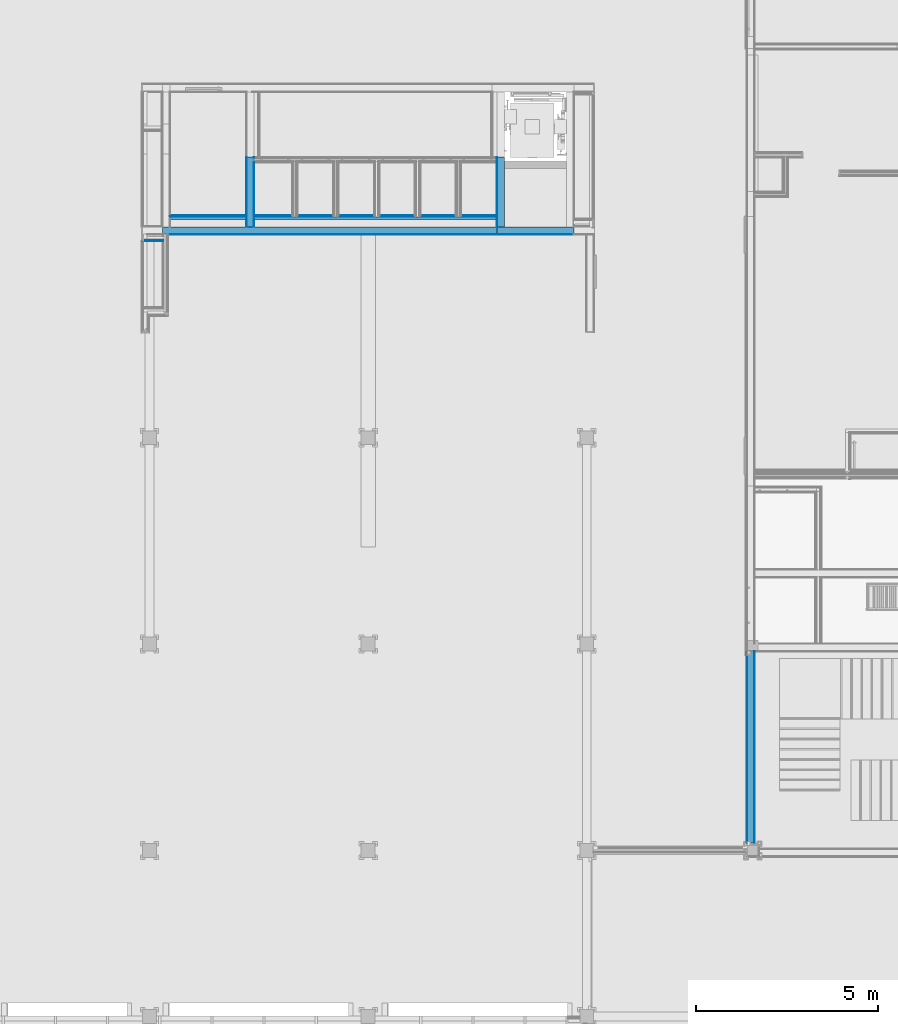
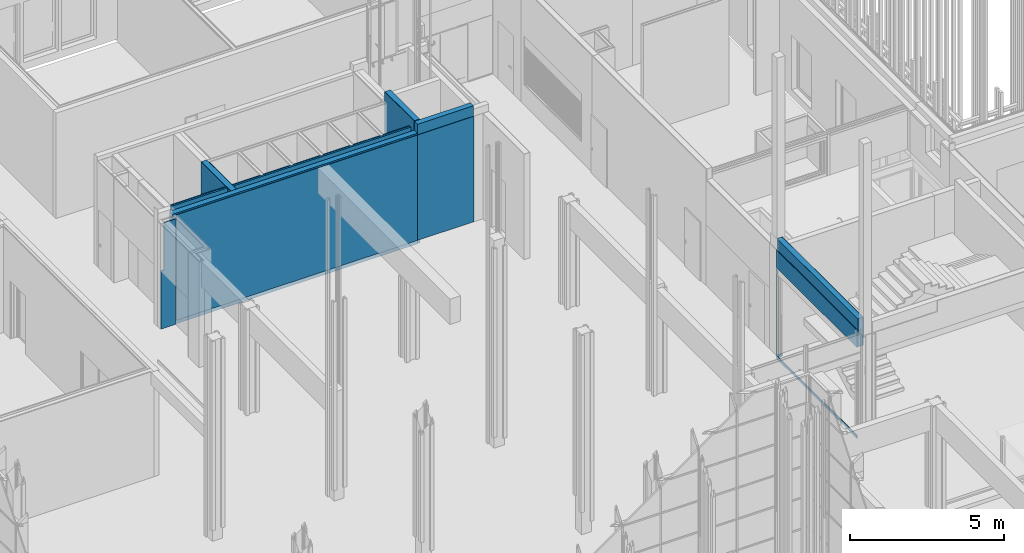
# One storey, part 172 of 260: 23 building element parts, 1 opening, 8 elements without a shape of their own.
"""IFC2X3 building model written with IfcOpenShell, lengths in millimetres."""

from ifc_helpers import new_model, entity, si_unit, converted_unit, derived_unit, money_unit, direction, frame, origin_with_axes, place, context, subcontext, project, spatial, faceted_brep, material, type_object, element, aggregate, save


model = new_model("IFC2X3")

# Units and contexts
model_context = context("Model", 3, precision=0.01, world=origin_with_axes(), true_north=direction((0.0, 1.0)))
body_context = subcontext(model_context, "Body", "Model", "MODEL_VIEW")
ifc_project = project(units=[si_unit("LENGTHUNIT", "METRE", prefix="MILLI"), si_unit("AREAUNIT", "SQUARE_METRE"), si_unit("VOLUMEUNIT", "CUBIC_METRE"), converted_unit("PLANEANGLEUNIT", "DEGREE", entity("IfcPlaneAngleMeasure", 0.0174532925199), si_unit("PLANEANGLEUNIT", "RADIAN"), dimensions=[0, 0, 0, 0, 0, 0, 0]), money_unit("EUR"), converted_unit("TIMEUNIT", "Year", entity("IfcTimeMeasure", 31556926.0), si_unit("TIMEUNIT", "SECOND"), dimensions=[0, 0, 1, 0, 0, 0, 0]), si_unit("MASSUNIT", "GRAM", prefix="KILO"), si_unit("THERMODYNAMICTEMPERATUREUNIT", "DEGREE_CELSIUS"), si_unit("LUMINOUSINTENSITYUNIT", "LUMEN"), si_unit("ENERGYUNIT", "JOULE", prefix="MEGA"), derived_unit("THERMALCONDUCTANCEUNIT", [(si_unit("POWERUNIT", "WATT"), 1), (si_unit("LENGTHUNIT", "METRE"), -1), (si_unit("THERMODYNAMICTEMPERATUREUNIT", "KELVIN"), -1)]), derived_unit("SPECIFICHEATCAPACITYUNIT", [(si_unit("ENERGYUNIT", "JOULE"), 1), (si_unit("MASSUNIT", "GRAM", prefix="KILO"), -1), (si_unit("THERMODYNAMICTEMPERATUREUNIT", "KELVIN"), -1)]), derived_unit("MASSDENSITYUNIT", [(si_unit("MASSUNIT", "GRAM", prefix="KILO"), 1), (si_unit("VOLUMEUNIT", "CUBIC_METRE"), -1)])], contexts=[model_context])

# Site, building, storey
site_placement = place(None, origin_with_axes())
site = spatial("IfcSite", under=ifc_project, at=site_placement, Name="Kolde pst 67a", CompositionType="ELEMENT")
building_placement = place(site_placement, origin_with_axes())
building = spatial("IfcBuilding", under=site, at=building_placement, Name="Riigigümnaasium", CompositionType="ELEMENT")
storey_placement = place(building_placement, origin_with_axes())
storey = spatial("IfcBuildingStorey", under=building, at=storey_placement, Name="1. korrus", CompositionType="ELEMENT", Elevation=0.0)

# Wall, opening, building element parts
wall_type_1 = type_object("IfcWallType", Name="SS-RB-20/3_+krohv+dold 240", PredefinedType="NOTDEFINED")
wall_1_placement = place(storey_placement, frame((52829.9941222, 34239.9999729, -120.1), z_axis=(0.0, 0.0, 1.0), x_axis=(0.0, -1.0, 0.0)))
wall_1 = element("IfcWall", 1, at=wall_1_placement, inside=storey, type_object=wall_type_1, Name="Sisesein")
opening_placement = place(wall_1_placement, frame((2642.50015843, 0.0, 120.1), z_axis=(0.0, 0.0, 1.0), x_axis=(1.0, 0.0, 0.0)))
element("IfcOpeningElement", 2, at=opening_placement, cuts=wall_1, Name="Ukseava", context=body_context, shape_type="Brep", body=[
    faceted_brep([(2637.50015843, 240.0, 0.0), (2637.50015843, 240.0, 3470.0), (2637.50015843, -480.0, 3470.0), (2637.50015843, -480.0, 0.0), (-2637.50015843, 240.0, 0.0), (-2637.50015843, 240.0, 3470.0), (-2637.50015843, -480.0, 3470.0), (-2637.50015843, -480.0, 0.0)], [[[0, 1, 2, 3]], [[0, 4, 5, 1]], [[1, 5, 6, 2]], [[3, 2, 6, 7]], [[4, 0, 3, 7]], [[5, 4, 7, 6]]]),
])
ifc_material_1 = material(Name="_VIIMISTLUSKIHT - viimistlus vastavalt SA osale")
building_element_part_1_placement = place(wall_1_placement, origin_with_axes())
building_element_part_1 = element("IfcBuildingElementPart", 3, at=building_element_part_1_placement, material=ifc_material_1, Name="_VIIMISTLUSKIHT - viimistlus vastavalt SA osale", context=body_context, shape_type="Brep", body=[
    faceted_brep([(5250.00031686, 0.0, 3610.1), (10.0, 0.0, 3610.1), (10.0, 0.0, 4355.1), (0.0, 0.0, 4355.1), (0.0, 0.0, 4720.1), (5250.00031686, 0.0, 4720.1), (10.0, -10.0, 3610.1), (5250.00031686, -10.0, 3610.1), (10.0, -10.0, 4355.1), (0.0, -10.0, 4355.1), (0.0, -10.0, 4720.1), (5250.00031686, -10.0, 4720.1)], [[[0, 1, 2, 3, 4, 5]], [[6, 1, 0, 7]], [[1, 6, 8, 2]], [[2, 8, 9, 3]], [[10, 4, 3, 9]], [[4, 10, 11, 5]], [[7, 0, 5, 11]], [[6, 7, 11, 10, 9, 8]]]),
    faceted_brep([(10.0, -10.0, 120.1), (10.0, 0.0, 120.1), (0.0, 0.0, 120.1), (0.0, -10.0, 120.1), (10.0, 0.0, 0.0), (10.0, -10.0, 0.0), (0.0, 0.0, 0.0), (0.0, -10.0, 0.0)], [[[0, 1, 2, 3]], [[4, 1, 0, 5]], [[1, 4, 6, 2]], [[7, 3, 2, 6]], [[5, 0, 3, 7]], [[4, 5, 7, 6]]]),
])
ifc_material_2 = material(Name="_KANDETARIND - monteeritav raudbetoon vastavalt EK osale")
building_element_part_2_placement = place(wall_1_placement, origin_with_axes())
building_element_part_2 = element("IfcBuildingElementPart", 4, at=building_element_part_2_placement, material=ifc_material_2, Name="_KANDETARIND - monteeritav raudbetoon vastavalt EK osale", context=body_context, shape_type="Brep", body=[
    faceted_brep([(10.0, -10.0, 120.1), (0.0, -10.0, 120.1), (0.0, -200.0, 120.1), (5.0, -200.0, 120.1), (5.0, -210.0, 120.1), (10.0, -210.0, 120.1), (10.0, -10.0, 0.0), (0.0, -10.0, 0.0), (0.0, -10.0, 4355.1), (0.0, -200.0, 4355.1), (0.0, -210.0, 0.0), (0.0, -210.0, 4720.1), (0.0, -10.0, 4720.1), (10.0, -200.0, 3610.1), (10.0, -200.0, 3590.1), (5.0, -200.0, 3590.1), (10.0, -200.0, 4355.1), (5.0, -210.0, 3590.1), (10.0, -210.0, 3610.1), (5250.00031686, -210.0, 3610.1), (5250.00031686, -210.0, 4720.1), (10.0, -210.0, 0.0), (10.0, -210.0, 3590.1), (10.0, -10.0, 4355.1), (5250.00031686, -10.0, 4720.1), (5250.00031686, -10.0, 3610.1), (10.0, -10.0, 3610.1)], [[[0, 1, 2, 3, 4, 5]], [[0, 6, 7, 1]], [[8, 9, 2, 1, 7, 10, 11, 12]], [[13, 14, 15, 3, 2, 9, 16]], [[17, 4, 3, 15]], [[18, 19, 20, 11, 10, 21, 5, 4, 17, 22]], [[6, 0, 5, 21]], [[6, 21, 10, 7]], [[23, 16, 9, 8]], [[12, 11, 20, 24]], [[25, 26, 23, 8, 12, 24]], [[14, 13, 18, 22]], [[14, 22, 17, 15]], [[26, 13, 16, 23]], [[13, 26, 25, 19, 18]], [[19, 25, 24, 20]]]),
])
ifc_material_3 = material(Name="_KARKASS - eriprofiilkinnitus vastavalt sisemisele plaatviimistlusele")
building_element_part_3_placement = place(wall_1_placement, origin_with_axes())
building_element_part_3 = element("IfcBuildingElementPart", 5, at=building_element_part_3_placement, material=ifc_material_3, Name="_KARKASS - eriprofiilkinnitus vastavalt sisemisele plaatviimistlusele", context=body_context, shape_type="Brep", body=[
    faceted_brep([(10.0, -220.000000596, 120.1), (10.0, -210.0, 120.1), (5.0, -210.0, 120.1), (5.0, -220.0, 120.1), (10.0, -210.0, 0.0), (10.0, -220.000000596, 0.0), (10.0, -210.0, 3610.1), (10.0, -210.0, 3590.1), (5.0, -210.0, 3590.1), (0.0, -210.0, 0.0), (0.0, -210.0, 4720.1), (5250.00031686, -210.0, 4720.1), (5250.00031686, -210.0, 3610.1), (5.0, -220.0, 3590.1), (10.0, -220.000000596, 3610.1), (5250.00031686, -220.000000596, 3610.1), (5250.00031686, -220.0, 4290.1), (0.0, -220.0, 4290.1), (0.0, -220.0, 0.0), (10.0, -220.000000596, 3590.1), (0.0, -211.0, 4290.1), (0.0, -211.0, 4720.1), (5250.00031686, -211.0, 4720.1), (5250.00031686, -211.0, 4290.1)], [[[0, 1, 2, 3]], [[4, 1, 0, 5]], [[6, 7, 8, 2, 1, 4, 9, 10, 11, 12]], [[13, 3, 2, 8]], [[14, 15, 16, 17, 18, 5, 0, 3, 13, 19]], [[4, 5, 18, 9]], [[7, 6, 14, 19]], [[7, 19, 13, 8]], [[18, 17, 20, 21, 10, 9]], [[10, 21, 22, 11]], [[15, 12, 11, 22, 23, 16]], [[6, 12, 15, 14]], [[23, 20, 17, 16]], [[22, 21, 20, 23]]]),
])
building_element_part_4_placement = place(wall_1_placement, origin_with_axes())
building_element_part_4 = element("IfcBuildingElementPart", 6, at=building_element_part_4_placement, material=ifc_material_1, Name="_VIIMISTLUSKIHT - viimistlus vastavalt SA osale", context=body_context, shape_type="Brep", body=[
    faceted_brep([(0.0, -240.0, 0.0), (0.0, -240.0, 4290.1), (0.0, -220.0, 4290.1), (0.0, -220.0, 0.0), (5250.00031686, -240.0, 3590.1), (5250.00031686, -240.0, 4290.1), (5250.00031686, -240.0, 0.0), (5250.00031686, -240.0, 120.1), (5.0, -240.0, 120.1), (5.0, -240.0, 3590.1), (5250.00031686, -220.0, 4290.1), (5250.00031686, -220.0, 3590.1), (5.0, -220.0, 3590.1), (5.0, -220.0, 120.1), (5250.00031686, -220.0, 120.1), (5250.00031686, -220.0, 0.0)], [[[0, 1, 2, 3]], [[4, 5, 1, 0, 6, 7, 8, 9]], [[5, 10, 2, 1]], [[3, 2, 10, 11, 12, 13, 14, 15]], [[3, 15, 6, 0]], [[11, 10, 5, 4]], [[6, 15, 14, 7]], [[8, 7, 14, 13]], [[9, 8, 13, 12]], [[4, 9, 12, 11]]]),
])
aggregate(wall_1, [building_element_part_1, building_element_part_2, building_element_part_3, building_element_part_4])

# Wall, building element parts
wall_type_2 = type_object("IfcWallType", Name="SS-MK-66/3_šahti sein+plaat 106", PredefinedType="NOTDEFINED")
wall_2_placement = place(storey_placement, frame((39109.8305113, 46179.9999966, 0.0), z_axis=(0.0, 0.0, 1.0), x_axis=(1.0, 0.0, 0.0)))
wall_2 = element("IfcWall", 7, at=wall_2_placement, inside=storey, type_object=wall_type_2, Name="Varisein")
building_element_part_5_placement = place(wall_2_placement, origin_with_axes())
building_element_part_5 = element("IfcBuildingElementPart", 8, at=building_element_part_5_placement, material=ifc_material_1, Name="_VIIMISTLUSKIHT - viimistlus vastavalt SA osale", context=body_context, shape_type="Brep", body=[
    faceted_brep([(15.0, 0.0, 4230.0), (1065.15494935, 0.0, 4230.0), (1065.15494935, 0.0, 0.0), (15.0, 0.0, 0.0), (1065.15494935, -15.0, 4230.0), (15.0, -15.0, 4230.0), (1065.15494935, -15.0, 0.0), (15.0, -15.0, 0.0)], [[[0, 1, 2, 3]], [[4, 1, 0, 5]], [[1, 4, 6, 2]], [[2, 6, 7, 3]], [[5, 0, 3, 7]], [[4, 5, 7, 6]]]),
    faceted_brep([(1190.15494935, 0.0, 4230.0), (2185.15494935, 0.0, 4230.0), (2185.15494935, 0.0, 0.0), (1190.15494935, 0.0, 0.0), (2185.15494935, -15.0, 4230.0), (1190.15494935, -15.0, 4230.0), (2185.15494935, -15.0, 0.0), (1190.15494935, -15.0, 0.0)], [[[0, 1, 2, 3]], [[4, 1, 0, 5]], [[1, 4, 6, 2]], [[2, 6, 7, 3]], [[5, 0, 3, 7]], [[4, 5, 7, 6]]]),
    faceted_brep([(2310.15494935, 0.0, 4230.0), (3305.15494935, 0.0, 4230.0), (3305.15494935, 0.0, 0.0), (2310.15494935, 0.0, 0.0), (3305.15494935, -15.0, 4230.0), (2310.15494935, -15.0, 4230.0), (3305.15494935, -15.0, 0.0), (2310.15494935, -15.0, 0.0)], [[[0, 1, 2, 3]], [[4, 1, 0, 5]], [[1, 4, 6, 2]], [[2, 6, 7, 3]], [[5, 0, 3, 7]], [[4, 5, 7, 6]]]),
    faceted_brep([(3430.15494935, 0.0, 4230.0), (4425.15494935, 0.0, 4230.0), (4425.15494935, 0.0, 0.0), (3430.15494935, 0.0, 0.0), (4425.15494935, -15.0, 4230.0), (3430.15494935, -15.0, 4230.0), (4425.15494935, -15.0, 0.0), (3430.15494935, -15.0, 0.0)], [[[0, 1, 2, 3]], [[4, 1, 0, 5]], [[1, 4, 6, 2]], [[2, 6, 7, 3]], [[5, 0, 3, 7]], [[4, 5, 7, 6]]]),
    faceted_brep([(4550.15494935, 0.0, 4230.0), (5545.15494935, 0.0, 4230.0), (5545.15494935, 0.0, 0.0), (4550.15494935, 0.0, 0.0), (5545.15494935, -15.0, 4230.0), (4550.15494935, -15.0, 4230.0), (5545.15494935, -15.0, 0.0), (4550.15494935, -15.0, 0.0)], [[[0, 1, 2, 3]], [[4, 1, 0, 5]], [[1, 4, 6, 2]], [[2, 6, 7, 3]], [[5, 0, 3, 7]], [[4, 5, 7, 6]]]),
    faceted_brep([(5670.15494935, 0.0, 4230.0), (6665.15494935, 0.0, 4230.0), (6665.15494935, 0.0, 0.0), (5670.15494935, 0.0, 0.0), (6665.15494935, -15.0, 4230.0), (5670.15494935, -15.0, 4230.0), (6665.15494935, -15.0, 0.0), (5670.15494935, -15.0, 0.0)], [[[0, 1, 2, 3]], [[4, 1, 0, 5]], [[1, 4, 6, 2]], [[3, 2, 6, 7]], [[5, 0, 3, 7]], [[4, 5, 7, 6]]]),
])
ifc_material_4 = material(Name="_PLAATMATERJAL - kipsplaat veekindel")
building_element_part_6_placement = place(wall_2_placement, origin_with_axes())
building_element_part_6 = element("IfcBuildingElementPart", 9, at=building_element_part_6_placement, material=ifc_material_4, Name="_PLAATMATERJAL - kipsplaat veekindel", context=body_context, shape_type="Brep", body=[
    faceted_brep([(0.0, -15.0, 4230.0), (1077.65494935, -15.0, 4230.0), (1077.65494935, -15.0, 0.0), (0.0, -15.0, 0.0), (1077.65494935, -27.5, 4230.0), (0.0, -27.5, 4230.0), (1077.65494935, -27.5, 0.0), (0.0, -27.5, 0.0)], [[[0, 1, 2, 3]], [[4, 1, 0, 5]], [[1, 4, 6, 2]], [[2, 6, 7, 3]], [[5, 0, 3, 7]], [[4, 5, 7, 6]]]),
    faceted_brep([(1177.65494935, -15.0, 4230.0), (2197.65494935, -15.0, 4230.0), (2197.65494935, -15.0, 0.0), (1177.65494935, -15.0, 0.0), (2197.65494935, -27.5, 4230.0), (1177.65494935, -27.5, 4230.0), (2197.65494935, -27.5, 0.0), (1177.65494935, -27.5, 0.0)], [[[0, 1, 2, 3]], [[4, 1, 0, 5]], [[1, 4, 6, 2]], [[2, 6, 7, 3]], [[5, 0, 3, 7]], [[4, 5, 7, 6]]]),
    faceted_brep([(2297.65494935, -15.0, 4230.0), (3317.65494935, -15.0, 4230.0), (3317.65494935, -15.0, 0.0), (2297.65494935, -15.0, 0.0), (3317.65494935, -27.5, 4230.0), (2297.65494935, -27.5, 4230.0), (3317.65494935, -27.5, 0.0), (2297.65494935, -27.5, 0.0)], [[[0, 1, 2, 3]], [[4, 1, 0, 5]], [[1, 4, 6, 2]], [[2, 6, 7, 3]], [[5, 0, 3, 7]], [[4, 5, 7, 6]]]),
    faceted_brep([(3417.65494935, -15.0, 4230.0), (4437.65494935, -15.0, 4230.0), (4437.65494935, -15.0, 0.0), (3417.65494935, -15.0, 0.0), (4437.65494935, -27.5, 4230.0), (3417.65494935, -27.5, 4230.0), (4437.65494935, -27.5, 0.0), (3417.65494935, -27.5, 0.0)], [[[0, 1, 2, 3]], [[4, 1, 0, 5]], [[1, 4, 6, 2]], [[2, 6, 7, 3]], [[5, 0, 3, 7]], [[4, 5, 7, 6]]]),
    faceted_brep([(4537.65494935, -15.0, 4230.0), (5557.65494935, -15.0, 4230.0), (5557.65494935, -15.0, 0.0), (4537.65494935, -15.0, 0.0), (5557.65494935, -27.5, 4230.0), (4537.65494935, -27.5, 4230.0), (5557.65494935, -27.5, 0.0), (4537.65494935, -27.5, 0.0)], [[[0, 1, 2, 3]], [[4, 1, 0, 5]], [[1, 4, 6, 2]], [[2, 6, 7, 3]], [[5, 0, 3, 7]], [[4, 5, 7, 6]]]),
    faceted_brep([(5657.65494935, -15.0, 4230.0), (6665.15494935, -15.0, 4230.0), (6665.15494935, -15.0, 0.0), (5657.65494935, -15.0, 0.0), (6665.15494935, -27.5, 4230.0), (5657.65494935, -27.5, 4230.0), (6665.15494935, -27.5, 0.0), (5657.65494935, -27.5, 0.0)], [[[0, 1, 2, 3]], [[4, 1, 0, 5]], [[1, 4, 6, 2]], [[3, 2, 6, 7]], [[5, 0, 3, 7]], [[4, 5, 7, 6]]]),
])
building_element_part_7_placement = place(wall_2_placement, origin_with_axes())
building_element_part_7 = element("IfcBuildingElementPart", 10, at=building_element_part_7_placement, material=ifc_material_4, Name="_PLAATMATERJAL - kipsplaat veekindel", context=body_context, shape_type="Brep", body=[
    faceted_brep([(0.0, -27.5, 4230.0), (1090.15494935, -27.5, 4230.0), (1090.15494935, -27.5, 0.0), (0.0, -27.5, 0.0), (1090.15494935, -40.0, 4230.0), (0.0, -40.0, 4230.0), (1090.15494935, -40.0, 0.0), (0.0, -40.0, 0.0)], [[[0, 1, 2, 3]], [[4, 1, 0, 5]], [[1, 4, 6, 2]], [[2, 6, 7, 3]], [[5, 0, 3, 7]], [[4, 5, 7, 6]]]),
    faceted_brep([(1165.15494935, -27.5, 4230.0), (2210.15494935, -27.5, 4230.0), (2210.15494935, -27.5, 0.0), (1165.15494935, -27.5, 0.0), (2210.15494935, -40.0, 4230.0), (1165.15494935, -40.0, 4230.0), (2210.15494935, -40.0, 0.0), (1165.15494935, -40.0, 0.0)], [[[0, 1, 2, 3]], [[4, 1, 0, 5]], [[1, 4, 6, 2]], [[2, 6, 7, 3]], [[5, 0, 3, 7]], [[4, 5, 7, 6]]]),
    faceted_brep([(2285.15494935, -27.5, 4230.0), (3330.15494935, -27.5, 4230.0), (3330.15494935, -27.5, 0.0), (2285.15494935, -27.5, 0.0), (3330.15494935, -40.0, 4230.0), (2285.15494935, -40.0, 4230.0), (3330.15494935, -40.0, 0.0), (2285.15494935, -40.0, 0.0)], [[[0, 1, 2, 3]], [[4, 1, 0, 5]], [[1, 4, 6, 2]], [[2, 6, 7, 3]], [[5, 0, 3, 7]], [[4, 5, 7, 6]]]),
    faceted_brep([(3405.15494935, -27.5, 4230.0), (4450.15494935, -27.5, 4230.0), (4450.15494935, -27.5, 0.0), (3405.15494935, -27.5, 0.0), (4450.15494935, -40.0, 4230.0), (3405.15494935, -40.0, 4230.0), (4450.15494935, -40.0, 0.0), (3405.15494935, -40.0, 0.0)], [[[0, 1, 2, 3]], [[4, 1, 0, 5]], [[1, 4, 6, 2]], [[2, 6, 7, 3]], [[5, 0, 3, 7]], [[4, 5, 7, 6]]]),
    faceted_brep([(4525.15494935, -27.5, 4230.0), (5570.15494935, -27.5, 4230.0), (5570.15494935, -27.5, 0.0), (4525.15494935, -27.5, 0.0), (5570.15494935, -40.0, 4230.0), (4525.15494935, -40.0, 4230.0), (5570.15494935, -40.0, 0.0), (4525.15494935, -40.0, 0.0)], [[[0, 1, 2, 3]], [[4, 1, 0, 5]], [[1, 4, 6, 2]], [[2, 6, 7, 3]], [[5, 0, 3, 7]], [[4, 5, 7, 6]]]),
    faceted_brep([(5645.15494935, -27.5, 4230.0), (6665.15494935, -27.5, 4230.0), (6665.15494935, -27.5, 0.0), (5645.15494935, -27.5, 0.0), (6665.15494935, -40.0, 4230.0), (5645.15494935, -40.0, 4230.0), (6665.15494935, -40.0, 0.0), (5645.15494935, -40.0, 0.0)], [[[0, 1, 2, 3]], [[4, 1, 0, 5]], [[1, 4, 6, 2]], [[3, 2, 6, 7]], [[5, 0, 3, 7]], [[4, 5, 7, 6]]]),
])
ifc_material_5 = material(Name="_KARKASS - metallkarkass CW 75/50, mineraalvill karkassi vahel")
building_element_part_8_placement = place(wall_2_placement, origin_with_axes())
building_element_part_8 = element("IfcBuildingElementPart", 11, at=building_element_part_8_placement, material=ifc_material_5, Name="_KARKASS - metallkarkass CW 75/50, mineraalvill karkassi vahel", context=body_context, shape_type="Brep", body=[
    faceted_brep([(0.0, -40.0, 4230.0), (6665.15494935, -40.0, 4230.0), (6665.15494935, -40.0, 0.0), (0.0, -40.0, 0.0), (6665.15494935, -106.0, 4230.0), (0.0, -106.0, 4230.0), (6665.15494935, -106.0, 0.0), (0.0, -106.0, 0.0)], [[[0, 1, 2, 3]], [[4, 1, 0, 5]], [[1, 4, 6, 2]], [[3, 2, 6, 7]], [[5, 0, 3, 7]], [[4, 5, 7, 6]]]),
])
aggregate(wall_2, [building_element_part_5, building_element_part_6, building_element_part_7, building_element_part_8])

wall_type_3 = type_object("IfcWallType", Name="SS-RB-20/5_+1 plaat 215", PredefinedType="NOTDEFINED")
wall_3_placement = place(storey_placement, frame((45774.9854607, 45869.9999598, -300.2), z_axis=(0.0, 0.0, 1.0), x_axis=(0.0, 1.0, 0.0)))
wall_3 = element("IfcWall", 12, at=wall_3_placement, inside=storey, type_object=wall_type_3, Name="Sisesein")
building_element_part_9_placement = place(wall_3_placement, origin_with_axes())
building_element_part_9 = element("IfcBuildingElementPart", 13, at=building_element_part_9_placement, material=ifc_material_1, Name="_VIIMISTLUSKIHT - viimistlus vastavalt SA osale", context=body_context, shape_type="Brep", body=[
    faceted_brep([(1908.50000096, 0.0, 4900.2), (1908.50000096, 15.0, 4900.2), (0.0, 15.0, 4900.2), (0.0, 0.0, 4900.2), (1908.50000096, 0.0, 0.0), (1908.50000096, 15.0, 0.0), (0.0, 15.0, 0.0), (0.0, 0.0, 0.0)], [[[0, 1, 2, 3]], [[0, 4, 5, 1]], [[1, 5, 6, 2]], [[3, 2, 6, 7]], [[4, 0, 3, 7]], [[5, 4, 7, 6]]]),
])
building_element_part_10_placement = place(wall_3_placement, origin_with_axes())
building_element_part_10 = element("IfcBuildingElementPart", 14, at=building_element_part_10_placement, material=ifc_material_2, Name="_KANDETARIND - monteeritav raudbetoon vastavalt EK osale", context=body_context, shape_type="Brep", body=[
    faceted_brep([(1908.50000096, -200.0, 4900.2), (1908.50000096, 0.0, 4900.2), (0.0, 0.0, 4900.2), (0.0, -200.0, 4900.2), (1908.50000096, -200.0, 0.0), (1908.50000096, 0.0, 0.0), (0.0, 0.0, 0.0), (0.0, -200.0, 0.0)], [[[0, 1, 2, 3]], [[0, 4, 5, 1]], [[1, 5, 6, 2]], [[3, 2, 6, 7]], [[4, 0, 3, 7]], [[5, 4, 7, 6]]]),
])
aggregate(wall_3, [building_element_part_9, building_element_part_10])

wall_4_placement = place(storey_placement, frame((36804.99923, 46179.9999966, 0.0), z_axis=(0.0, 0.0, 1.0), x_axis=(1.0, 0.0, 0.0)))
wall_4 = element("IfcWall", 15, at=wall_4_placement, inside=storey, type_object=wall_type_2, Name="Varisein")
building_element_part_11_placement = place(wall_4_placement, origin_with_axes())
building_element_part_11 = element("IfcBuildingElementPart", 16, at=building_element_part_11_placement, material=ifc_material_1, Name="_VIIMISTLUSKIHT - viimistlus vastavalt SA osale", context=body_context, shape_type="Brep", body=[
    faceted_brep([(15.0, 0.0, 4230.0), (2089.83128133, 0.0, 4230.0), (2089.83128133, 0.0, 0.0), (15.0, 0.0, 0.0), (2089.83128133, -15.0, 4230.0), (15.0, -15.0, 4230.0), (2089.83128133, -15.0, 0.0), (15.0, -15.0, 0.0)], [[[0, 1, 2, 3]], [[4, 1, 0, 5]], [[1, 4, 6, 2]], [[3, 2, 6, 7]], [[5, 0, 3, 7]], [[4, 5, 7, 6]]]),
])
building_element_part_12_placement = place(wall_4_placement, origin_with_axes())
building_element_part_12 = element("IfcBuildingElementPart", 17, at=building_element_part_12_placement, material=ifc_material_4, Name="_PLAATMATERJAL - kipsplaat veekindel", context=body_context, shape_type="Brep", body=[
    faceted_brep([(0.0, -15.0, 4230.0), (2104.83128133, -15.0, 4230.0), (2104.83128133, -15.0, 0.0), (0.0, -15.0, 0.0), (2104.83128133, -27.5, 4230.0), (0.0, -27.5, 4230.0), (2104.83128133, -27.5, 0.0), (0.0, -27.5, 0.0)], [[[0, 1, 2, 3]], [[4, 1, 0, 5]], [[1, 4, 6, 2]], [[3, 2, 6, 7]], [[5, 0, 3, 7]], [[4, 5, 7, 6]]]),
])
building_element_part_13_placement = place(wall_4_placement, origin_with_axes())
building_element_part_13 = element("IfcBuildingElementPart", 18, at=building_element_part_13_placement, material=ifc_material_4, Name="_PLAATMATERJAL - kipsplaat veekindel", context=body_context, shape_type="Brep", body=[
    faceted_brep([(0.0, -27.5, 4230.0), (2104.83128133, -27.5, 4230.0), (2104.83128133, -27.5, 0.0), (0.0, -27.5, 0.0), (2104.83128133, -40.0, 4230.0), (0.0, -40.0, 4230.0), (2104.83128133, -40.0, 0.0), (0.0, -40.0, 0.0)], [[[0, 1, 2, 3]], [[4, 1, 0, 5]], [[1, 4, 6, 2]], [[3, 2, 6, 7]], [[5, 0, 3, 7]], [[4, 5, 7, 6]]]),
])
building_element_part_14_placement = place(wall_4_placement, origin_with_axes())
building_element_part_14 = element("IfcBuildingElementPart", 19, at=building_element_part_14_placement, material=ifc_material_5, Name="_KARKASS - metallkarkass CW 75/50, mineraalvill karkassi vahel", context=body_context, shape_type="Brep", body=[
    faceted_brep([(0.0, -40.0, 4230.0), (2104.83128133, -40.0, 4230.0), (2104.83128133, -40.0, 0.0), (0.0, -40.0, 0.0), (2104.83128133, -106.0, 4230.0), (0.0, -106.0, 4230.0), (2104.83128133, -106.0, 0.0), (0.0, -106.0, 0.0)], [[[0, 1, 2, 3]], [[4, 1, 0, 5]], [[1, 4, 6, 2]], [[3, 2, 6, 7]], [[5, 0, 3, 7]], [[4, 5, 7, 6]]]),
])
aggregate(wall_4, [building_element_part_11, building_element_part_12, building_element_part_13, building_element_part_14])

wall_5_placement = place(storey_placement, frame((45774.9854607, 45669.9999598, -150.0), z_axis=(0.0, 0.0, 1.0), x_axis=(-1.0, 0.0, 0.0)))
wall_5 = element("IfcWall", 20, at=wall_5_placement, inside=storey, type_object=wall_type_3, Name="Sisesein")
building_element_part_15_placement = place(wall_5_placement, origin_with_axes())
building_element_part_15 = element("IfcBuildingElementPart", 21, at=building_element_part_15_placement, material=ifc_material_1, Name="_VIIMISTLUSKIHT - viimistlus vastavalt SA osale", context=body_context, shape_type="Brep", body=[
    faceted_brep([(9154.98623068, 15.0, 150.0), (9154.98623068, 0.0, 150.0), (9154.98623068, 0.0, 4320.0), (9154.98623068, 15.0, 4320.0), (9169.98623068, 0.0, 150.0), (9169.98623068, 15.0, 150.0), (9169.98623068, 0.0, 4320.0), (9169.98623068, 15.0, 4320.0)], [[[0, 1, 2, 3]], [[4, 1, 0, 5]], [[1, 4, 6, 2]], [[3, 2, 6, 7]], [[5, 0, 3, 7]], [[4, 5, 7, 6]]]),
    faceted_brep([(0.0, 15.0, 150.0), (0.0, 0.0, 150.0), (0.0, 0.0, 4320.0), (0.0, 15.0, 4320.0), (9029.98623068, 0.0, 150.0), (9029.98623068, 15.0, 150.0), (9029.98623068, 0.0, 4320.0), (9029.98623068, 15.0, 4320.0)], [[[0, 1, 2, 3]], [[4, 1, 0, 5]], [[1, 4, 6, 2]], [[3, 2, 6, 7]], [[5, 0, 3, 7]], [[4, 5, 7, 6]]]),
])
building_element_part_16_placement = place(wall_5_placement, origin_with_axes())
building_element_part_16 = element("IfcBuildingElementPart", 22, at=building_element_part_16_placement, material=ifc_material_2, Name="_KANDETARIND - monteeritav raudbetoon vastavalt EK osale", context=body_context, shape_type="Brep", body=[
    faceted_brep([(9169.98623068, -200.0, 4380.0), (0.0, -200.0, 4380.0), (0.0, -200.0, 0.0), (9169.98623068, -200.0, 0.0), (0.0, 0.0, 4380.0), (9169.98623068, 0.0, 4380.0), (0.0, 0.0, 0.0), (9169.98623068, 0.0, 0.0)], [[[0, 1, 2, 3]], [[4, 1, 0, 5]], [[1, 4, 6, 2]], [[3, 2, 6, 7]], [[5, 0, 3, 7]], [[4, 5, 7, 6]]]),
])
aggregate(wall_5, [building_element_part_15, building_element_part_16])

wall_6_placement = place(storey_placement, frame((47874.9854607, 45669.9999598, 0.0), z_axis=(0.0, 0.0, 1.0), x_axis=(-1.0, 0.0, 0.0)))
wall_6 = element("IfcWall", 23, at=wall_6_placement, inside=storey, type_object=wall_type_3, Name="Sisesein")
building_element_part_17_placement = place(wall_6_placement, origin_with_axes())
building_element_part_17 = element("IfcBuildingElementPart", 24, at=building_element_part_17_placement, material=ifc_material_1, Name="_VIIMISTLUSKIHT - viimistlus vastavalt SA osale", context=body_context, shape_type="Brep", body=[
    faceted_brep([(2100.0, 0.0, 4170.0), (0.0, 0.0, 4170.0), (0.0, 0.0, 0.0), (2100.0, 0.0, 0.0), (0.0, 15.0, 4170.0), (2100.0, 15.0, 4170.0), (0.0, 15.0, 0.0), (2100.0, 15.0, 0.0)], [[[0, 1, 2, 3]], [[4, 1, 0, 5]], [[1, 4, 6, 2]], [[2, 6, 7, 3]], [[5, 0, 3, 7]], [[4, 5, 7, 6]]]),
])
building_element_part_18_placement = place(wall_6_placement, origin_with_axes())
building_element_part_18 = element("IfcBuildingElementPart", 25, at=building_element_part_18_placement, material=ifc_material_2, Name="_KANDETARIND - monteeritav raudbetoon vastavalt EK osale", context=body_context, shape_type="Brep", body=[
    faceted_brep([(0.0, -200.0, 4580.0), (2100.0, -200.0, 4580.0), (2100.0, 0.0, 4580.0), (0.0, 0.0, 4580.0), (0.0, -200.0, 0.0), (2100.0, -200.0, 0.0), (2100.0, 0.0, 0.0), (0.0, 0.0, 0.0)], [[[0, 1, 2, 3]], [[4, 5, 1, 0]], [[2, 1, 5, 6]], [[3, 2, 6, 7]], [[4, 0, 3, 7]], [[7, 6, 5, 4]]]),
])
aggregate(wall_6, [building_element_part_17, building_element_part_18])

wall_type_4 = type_object("IfcWallType", Name="SS-RB-20/2_+2 plaat 230", PredefinedType="NOTDEFINED")
wall_7_placement = place(storey_placement, frame((39109.8305113, 45669.9999598, -80.0), z_axis=(0.0, 0.0, 1.0), x_axis=(0.0, 1.0, 0.0)))
wall_7 = element("IfcWall", 26, at=wall_7_placement, inside=storey, type_object=wall_type_4, Name="Sisesein")
building_element_part_19_placement = place(wall_7_placement, origin_with_axes())
building_element_part_19 = element("IfcBuildingElementPart", 27, at=building_element_part_19_placement, material=ifc_material_1, Name="_VIIMISTLUSKIHT - viimistlus vastavalt SA osale", context=body_context, shape_type="Brep", body=[
    faceted_brep([(200.0, 200.0, 80.0), (404.000036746, 200.0, 80.0), (404.000036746, 200.0, 4310.0), (200.0, 200.0, 4310.0), (404.000036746, 215.0, 80.0), (200.0, 215.0, 80.0), (404.000036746, 215.0, 4310.0), (200.0, 215.0, 4310.0)], [[[0, 1, 2, 3]], [[4, 1, 0, 5]], [[1, 4, 6, 2]], [[3, 2, 6, 7]], [[5, 0, 3, 7]], [[4, 5, 7, 6]]]),
    faceted_brep([(495.000036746, 200.0, 80.0), (2108.50000096, 200.0, 80.0), (2108.50000096, 200.0, 4310.0), (495.000036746, 200.0, 4310.0), (2108.50000096, 215.0, 80.0), (495.000036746, 215.0, 80.0), (2108.50000096, 215.0, 4310.0), (495.000036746, 215.0, 4310.0)], [[[0, 1, 2, 3]], [[4, 1, 0, 5]], [[1, 4, 6, 2]], [[3, 2, 6, 7]], [[5, 0, 3, 7]], [[4, 5, 7, 6]]]),
])
building_element_part_20_placement = place(wall_7_placement, origin_with_axes())
building_element_part_20 = element("IfcBuildingElementPart", 28, at=building_element_part_20_placement, material=ifc_material_2, Name="_KANDETARIND - monteeritav raudbetoon vastavalt EK osale", context=body_context, shape_type="Brep", body=[
    faceted_brep([(2108.50000096, 200.0, 4310.0), (2108.50000096, 0.0, 4310.0), (2108.50000096, 0.0, 0.0), (2108.50000096, 200.0, 0.0), (200.0, 0.0, 4310.0), (200.0, 200.0, 4310.0), (200.0, 0.0, 0.0), (200.0, 200.0, 0.0)], [[[0, 1, 2, 3]], [[4, 1, 0, 5]], [[1, 4, 6, 2]], [[6, 7, 3, 2]], [[5, 0, 3, 7]], [[4, 5, 7, 6]]]),
])
building_element_part_21_placement = place(wall_7_placement, origin_with_axes())
building_element_part_21 = element("IfcBuildingElementPart", 29, at=building_element_part_21_placement, material=ifc_material_1, Name="_VIIMISTLUSKIHT - viimistlus vastavalt SA osale", context=body_context, shape_type="Brep", body=[
    faceted_brep([(200.0, -15.0, 80.0), (404.000036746, -15.0, 80.0), (404.000036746, -15.0, 4310.0), (200.0, -15.0, 4310.0), (404.000036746, 0.0, 80.0), (200.0, 0.0, 80.0), (404.000036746, 0.0, 4310.0), (200.0, 0.0, 4310.0)], [[[0, 1, 2, 3]], [[4, 1, 0, 5]], [[1, 4, 6, 2]], [[3, 2, 6, 7]], [[5, 0, 3, 7]], [[4, 5, 7, 6]]]),
    faceted_brep([(495.000036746, -15.0, 80.0), (1968.50000096, -15.0, 80.0), (1968.50000096, -15.0, 4310.0), (495.000036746, -15.0, 4310.0), (1968.50000096, 0.0, 80.0), (495.000036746, 0.0, 80.0), (1968.50000096, 0.0, 4310.0), (495.000036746, 0.0, 4310.0)], [[[0, 1, 2, 3]], [[4, 1, 0, 5]], [[1, 4, 6, 2]], [[3, 2, 6, 7]], [[5, 0, 3, 7]], [[4, 5, 7, 6]]]),
    faceted_brep([(2093.50000096, -15.0, 80.0), (2108.50000096, -15.0, 80.0), (2108.50000096, -15.0, 4310.0), (2093.50000096, -15.0, 4310.0), (2108.50000096, 0.0, 80.0), (2093.50000096, 0.0, 80.0), (2108.50000096, 0.0, 4310.0), (2093.50000096, 0.0, 4310.0)], [[[0, 1, 2, 3]], [[4, 1, 0, 5]], [[1, 4, 6, 2]], [[3, 2, 6, 7]], [[5, 0, 3, 7]], [[4, 5, 7, 6]]]),
])
aggregate(wall_7, [building_element_part_19, building_element_part_20, building_element_part_21])

wall_type_5 = type_object("IfcWallType", Name="SS-MK-10/2_šahti sein+plaat 140", PredefinedType="NOTDEFINED")
wall_8_placement = place(storey_placement, frame((36039.99923, 45469.9999598, 0.0), z_axis=(0.0, 0.0, 1.0), x_axis=(1.0, 0.0, 0.0)))
wall_8 = element("IfcWall", 30, at=wall_8_placement, inside=storey, type_object=wall_type_5, Name="Sisesein")
building_element_part_22_placement = place(wall_8_placement, origin_with_axes())
building_element_part_22 = element("IfcBuildingElementPart", 31, at=building_element_part_22_placement, material=ifc_material_4, Name="_PLAATMATERJAL - kipsplaat veekindel", context=body_context, shape_type="Brep", body=[
    faceted_brep([(140.0, 27.5, 4170.0), (580.0, 27.5, 4170.0), (580.0, 27.5, 0.0), (27.5, 27.5, 0.0), (27.5, 27.5, 2300.0), (140.0, 27.5, 2300.0), (580.0, 15.0, 4170.0), (140.0, 15.0, 4170.0), (580.0, 15.0, 0.0), (27.5, 15.0, 0.0), (27.5, 15.0, 2300.0), (140.0, 15.0, 2300.0)], [[[0, 1, 2, 3, 4, 5]], [[6, 1, 0, 7]], [[1, 6, 8, 2]], [[8, 9, 3, 2]], [[9, 10, 4, 3]], [[5, 4, 10, 11]], [[7, 0, 5, 11]], [[6, 7, 11, 10, 9, 8]]]),
])
building_element_part_23_placement = place(wall_8_placement, origin_with_axes())
building_element_part_23 = element("IfcBuildingElementPart", 32, at=building_element_part_23_placement, material=ifc_material_1, Name="_VIIMISTLUSKIHT - viimistlus vastavalt SA osale", context=body_context, shape_type="Brep", body=[
    faceted_brep([(140.0, 15.0, 4170.0), (565.0, 15.0, 4170.0), (565.0, 15.0, 0.0), (15.0, 15.0, 0.0), (14.9999949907, 15.0, 2300.0), (140.0, 15.0, 2300.0), (565.0, 0.0, 4170.0), (140.0, 0.0, 4170.0), (565.0, 0.0, 0.0), (15.0, 0.0, 0.0), (14.9999947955, 0.0, 2300.0), (140.0, 0.0, 2300.0)], [[[0, 1, 2, 3, 4, 5]], [[6, 1, 0, 7]], [[1, 6, 8, 2]], [[8, 9, 3, 2]], [[9, 10, 4, 3]], [[5, 4, 10, 11]], [[7, 0, 5, 11]], [[6, 7, 11, 10, 9, 8]]]),
])
aggregate(wall_8, [building_element_part_22, building_element_part_23])

save(model, "model.ifc")
